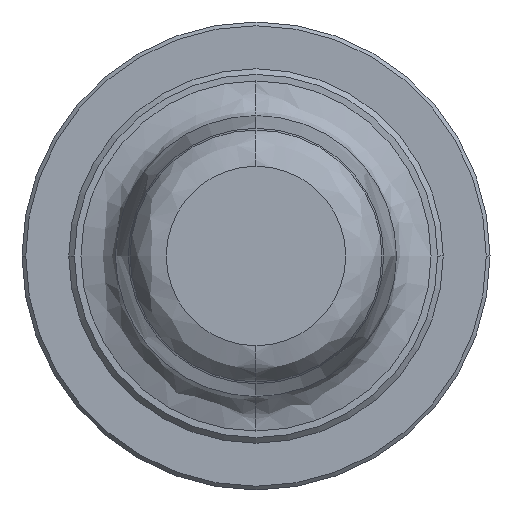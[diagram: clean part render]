
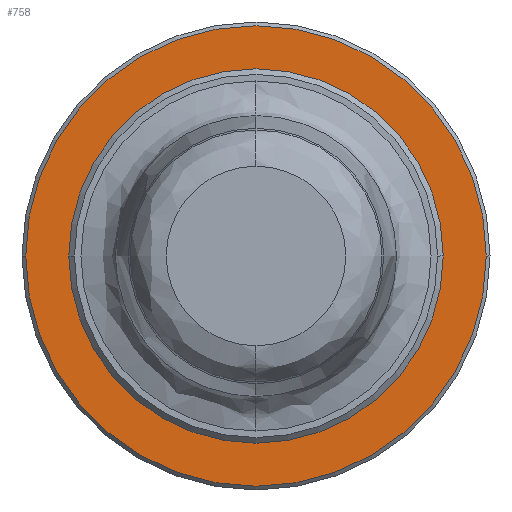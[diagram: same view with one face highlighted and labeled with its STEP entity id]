
A CAD part, left-side view. The second image highlights one B-rep face of the part: STEP entity #758.
In plain terms, the highlighted planar face has unit normal (-1, 0, 0).
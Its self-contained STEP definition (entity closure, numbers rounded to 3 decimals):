
#3 = FACE_BOUND ( 'NONE', #663, .T. ) ;
#13 = AXIS2_PLACEMENT_3D ( 'NONE', #1141, #626, #1243 ) ;
#24 = CIRCLE ( 'NONE', #613, 9.8 ) ;
#48 = CARTESIAN_POINT ( 'NONE',  ( 39.7, 47.7, -78. ) ) ;
#80 = VERTEX_POINT ( 'NONE', #856 ) ;
#92 = CIRCLE ( 'NONE', #1013, 12.3 ) ;
#101 = ORIENTED_EDGE ( 'NONE', *, *, #801, .T. ) ;
#190 = CIRCLE ( 'NONE', #13, 9.8 ) ;
#212 = VERTEX_POINT ( 'NONE', #998 ) ;
#218 = DIRECTION ( 'NONE',  ( 0., 0., 1. ) ) ;
#306 = CARTESIAN_POINT ( 'NONE',  ( 39.7, 60., -78. ) ) ;
#366 = ORIENTED_EDGE ( 'NONE', *, *, #554, .F. ) ;
#407 = DIRECTION ( 'NONE',  ( 0., 1., 0. ) ) ;
#429 = DIRECTION ( 'NONE',  ( -1., 0., 0. ) ) ;
#431 = VERTEX_POINT ( 'NONE', #1325 ) ;
#438 = EDGE_CURVE ( 'NONE', #212, #80, #24, .T. ) ;
#532 = ORIENTED_EDGE ( 'NONE', *, *, #1114, .F. ) ;
#554 = EDGE_CURVE ( 'NONE', #431, #962, #92, .T. ) ;
#587 = EDGE_LOOP ( 'NONE', ( #366, #532 ) ) ;
#613 = AXIS2_PLACEMENT_3D ( 'NONE', #1337, #709, #407 ) ;
#626 = DIRECTION ( 'NONE',  ( 1., 0., 0. ) ) ;
#636 = DIRECTION ( 'NONE',  ( 1., 0., 0. ) ) ;
#663 = EDGE_LOOP ( 'NONE', ( #101, #1255 ) ) ;
#709 = DIRECTION ( 'NONE',  ( 1., 0., 0. ) ) ;
#715 = DIRECTION ( 'NONE',  ( 1., 0., 0. ) ) ;
#729 = DIRECTION ( 'NONE',  ( 0., 1., 0. ) ) ;
#732 = CARTESIAN_POINT ( 'NONE',  ( 39.7, 71.05, -78. ) ) ;
#758 = ADVANCED_FACE ( 'NONE', ( #3, #1145 ), #940, .T. ) ;
#763 = CIRCLE ( 'NONE', #852, 12.3 ) ;
#801 = EDGE_CURVE ( 'NONE', #80, #212, #190, .T. ) ;
#852 = AXIS2_PLACEMENT_3D ( 'NONE', #1143, #636, #729 ) ;
#856 = CARTESIAN_POINT ( 'NONE',  ( 39.7, 60., -68.2 ) ) ;
#940 = PLANE ( 'NONE',  #1128 ) ;
#962 = VERTEX_POINT ( 'NONE', #48 ) ;
#995 = DIRECTION ( 'NONE',  ( 0., 1., 0. ) ) ;
#998 = CARTESIAN_POINT ( 'NONE',  ( 39.7, 60., -87.8 ) ) ;
#1013 = AXIS2_PLACEMENT_3D ( 'NONE', #306, #715, #995 ) ;
#1114 = EDGE_CURVE ( 'NONE', #962, #431, #763, .T. ) ;
#1128 = AXIS2_PLACEMENT_3D ( 'NONE', #732, #429, #218 ) ;
#1141 = CARTESIAN_POINT ( 'NONE',  ( 39.7, 60., -78. ) ) ;
#1143 = CARTESIAN_POINT ( 'NONE',  ( 39.7, 60., -78. ) ) ;
#1145 = FACE_OUTER_BOUND ( 'NONE', #587, .T. ) ;
#1243 = DIRECTION ( 'NONE',  ( 0., 1., 0. ) ) ;
#1255 = ORIENTED_EDGE ( 'NONE', *, *, #438, .T. ) ;
#1325 = CARTESIAN_POINT ( 'NONE',  ( 39.7, 72.3, -78. ) ) ;
#1337 = CARTESIAN_POINT ( 'NONE',  ( 39.7, 60., -78. ) ) ;
